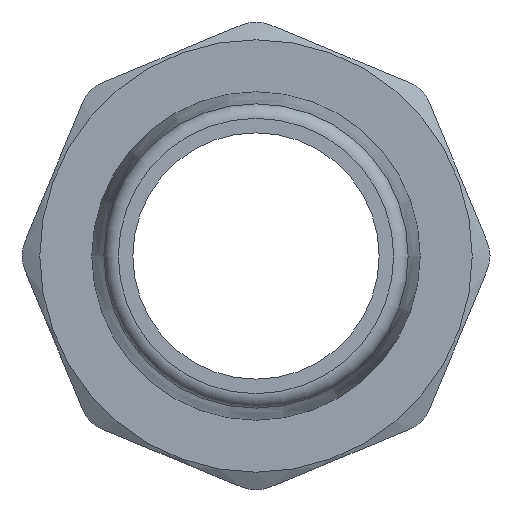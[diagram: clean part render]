
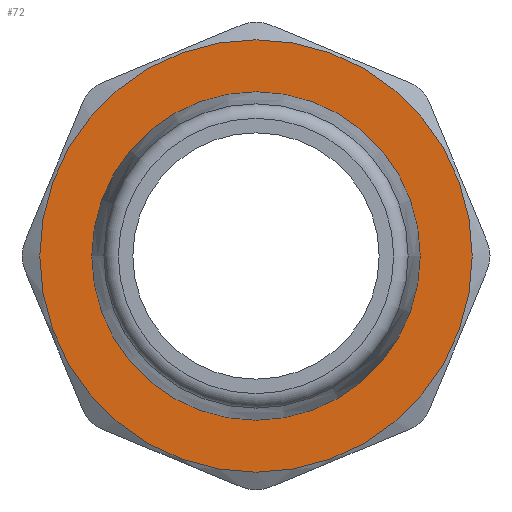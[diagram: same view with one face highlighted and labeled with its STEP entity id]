
A CAD part, front view. The second image highlights one B-rep face of the part: STEP entity #72.
In plain terms, the highlighted planar face has unit normal (0, -1, 0).
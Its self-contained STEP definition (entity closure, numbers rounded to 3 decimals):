
#72=ADVANCED_FACE('',(#301,#303),#305,.F.);
#301=FACE_BOUND('',#302,.T.);
#302=EDGE_LOOP('',(#506));
#303=FACE_BOUND('',#304,.T.);
#304=EDGE_LOOP('',(#507));
#305=PLANE('',#306);
#306=AXIS2_PLACEMENT_3D('',#307,#308,#309);
#307=CARTESIAN_POINT('',(0.,-15.,0.));
#308=DIRECTION('',(0.,1.,0.));
#309=DIRECTION('',(-1.,0.,0.));
#506=ORIENTED_EDGE('',*,*,#586,.T.);
#507=ORIENTED_EDGE('',*,*,#588,.F.);
#586=EDGE_CURVE('',#703,#703,#704,.F.);
#588=EDGE_CURVE('',#707,#707,#708,.T.);
#703=VERTEX_POINT('',#1955);
#704=CIRCLE('',#1956,11.85);
#707=VERTEX_POINT('',#1965);
#708=CIRCLE('',#1966,9.);
#1955=CARTESIAN_POINT('',(11.85,-15.,0.));
#1956=AXIS2_PLACEMENT_3D('',#1957,#1958,#1959);
#1957=CARTESIAN_POINT('',(0.,-15.,0.));
#1958=DIRECTION('',(0.,1.,0.));
#1959=DIRECTION('',(1.,0.,0.));
#1965=CARTESIAN_POINT('',(-9.,-15.,0.));
#1966=AXIS2_PLACEMENT_3D('',#1967,#1968,#1969);
#1967=CARTESIAN_POINT('',(0.,-15.,0.));
#1968=DIRECTION('',(0.,-1.,0.));
#1969=DIRECTION('',(-1.,0.,0.));
